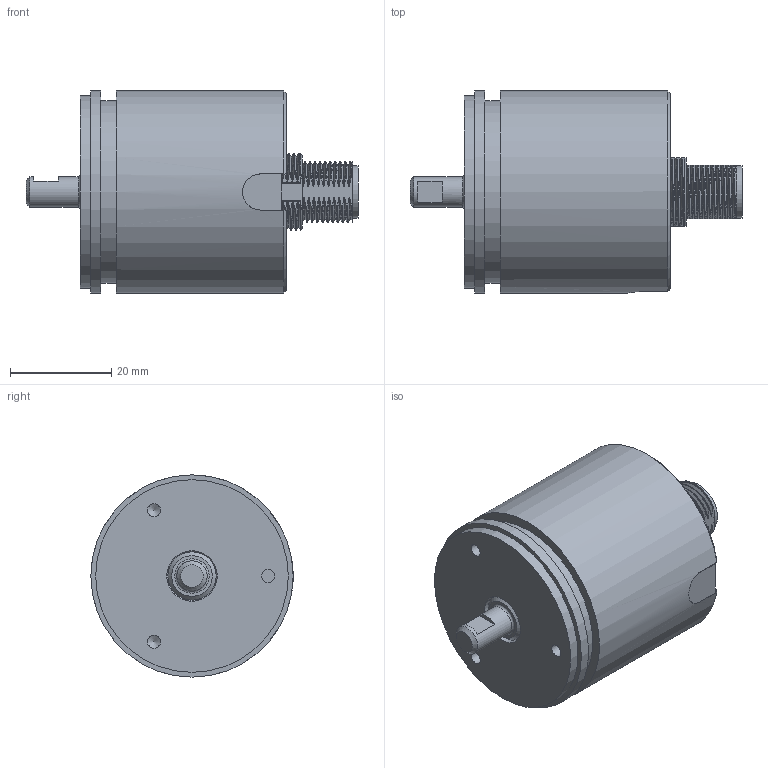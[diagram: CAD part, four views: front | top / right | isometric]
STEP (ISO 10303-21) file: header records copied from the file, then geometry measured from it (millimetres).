
FILE_DESCRIPTION(/* description */ (''),/* implementation_level */ '2;1');
FILE_NAME(/* name */ 'J140-CUST-ASSY-WRAP.step',/* time_stamp */ '2024-06-17T08:06:13-05:00',/* author */ (''),/* organization */ (''),/* preprocessor_version */ 'ST-DEVELOPER v20',/* originating_system */ 'Autodesk Translation Framework v13.14.0.145',/* authorisation */ '');
FILE_SCHEMA (('AUTOMOTIVE_DESIGN { 1 0 10303 214 3 1 1 }'));
Length unit declared in the file: inch
Products named in the file (1): J140-CUST-ASSY-WRAP
Bounding box: 65.44 x 39.88 x 39.88 mm (x, y, z)
Volume: 49989.3 mm3; surface area: 11018.3 mm2
Topology: 1 solids, 1 shells, 354 faces, 973 edges, 644 vertices
Faces by surface type: bspline 196, plane 72, cylinder 61, cone 19, sphere 5, torus 1
Full cylindrical faces by diameter (mm): 1 x5, 2.529 x3, 5.982 x1, 8.3 x1, 9.515 x1, 9.525 x1, 9.931 x1, 10.4 x1, 14.549 x1, 17.201 x1, 19.05 x1, 36.068 x1, 37.973 x1, 39.878 x2
Entity records: 20312 total; most frequent: CARTESIAN_POINT 13013, ORIENTED_EDGE 1930, EDGE_CURVE 965, DIRECTION 776, VERTEX_POINT 644, B_SPLINE_CURVE_WITH_KNOTS 618, EDGE_LOOP 385, FACE_OUTER_BOUND 354
